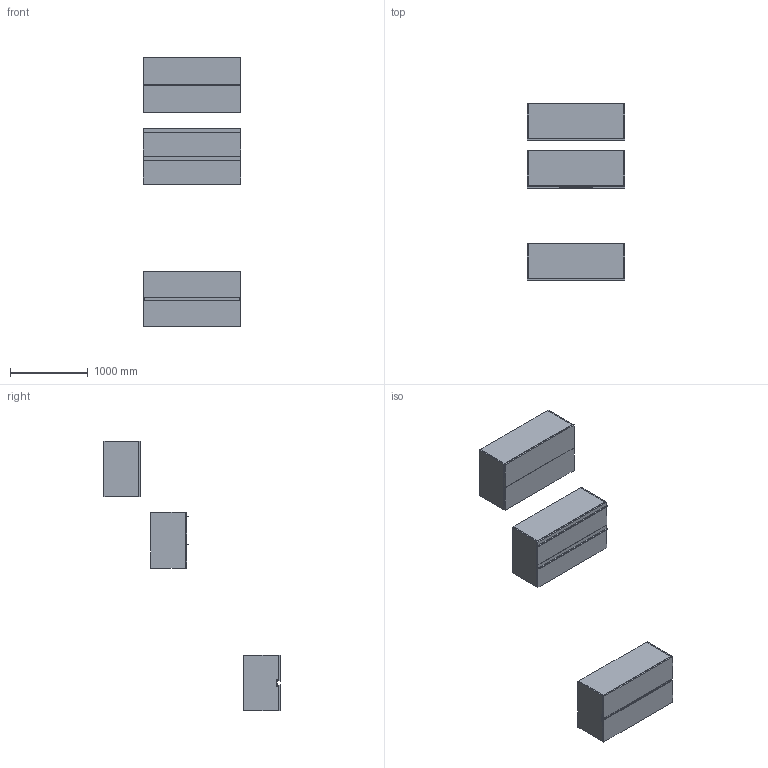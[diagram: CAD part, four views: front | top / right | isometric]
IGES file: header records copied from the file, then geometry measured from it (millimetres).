
Start section: Data from Parasolid IGES Translator 19.0.9, Copyright(c) 2006 Siemens PL M Software. All Rights Reserved.
Global section: file name: noorth-SI-H 72 D 47 W 126_8619.igs; native system: By Siemens PLM Incorporated; preprocessor: XPlus GENERIC/IGES 19.0.9; author: Noname; organization: Noname; date: 20200601.120006; units: metre
Bounding box: 1260 x 2270 x 3480.01 mm (x, y, z)
Volume: 142458767.3 mm3; surface area: 22283652.3 mm2
Topology: 24 solids, 24 shells, 248 faces, 544 edges, 324 vertices
Faces by surface type: plane 164, extrusion 36, bspline 32, cylinder 16
